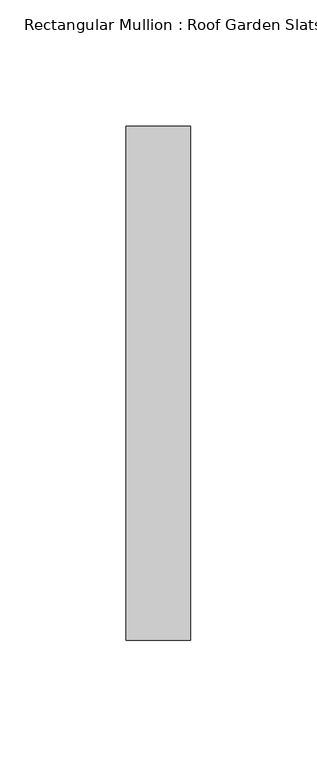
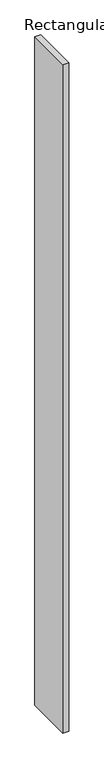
"""IFC4 building model written with IfcOpenShell, lengths in millimetres: member geometry, Rectangular Mullion : Roof Garden Slats."""

from ifc_helpers import new_model, si_unit, frame, origin, place, context, project, spatial, polyline, outline, extrude, source, transform, mapped, element, save


def rectangular_mullion_roof_garden_slats_bd5e8e8c(model_context):
    return source(origin(), model_context, "Body", "SweptSolid", [
        extrude(outline(polyline([(12.7, 139.7), (12.7, -63.5), (-12.7, -63.5), (-12.7, 139.7), (12.7, 139.7)])), frame((0.0, 0.0, -2979.9959549), z_axis=(0.0, 0.0, 1.0), x_axis=(1.0, 0.0, 0.0)), (0.0, 0.0, 1.0), 2979.9959549),
    ])


if __name__ == "__main__":
    model = new_model("IFC4")
    model_context = context("Model", 3, world=origin())
    ifc_project = project(units=[si_unit("LENGTHUNIT", "METRE", prefix="MILLI")], contexts=[model_context])
    site = spatial("IfcSite", under=ifc_project)
    building = spatial("IfcBuilding", under=site)
    placement = place(None, origin())
    rectangular_mullion_roof_garden_slats_shape = rectangular_mullion_roof_garden_slats_bd5e8e8c(model_context)
    element("IfcMember", 1, ObjectType="Rectangular Mullion : Roof Garden Slats", at=placement, inside=building, context=model_context, shape_type="MappedRepresentation", body=[
        mapped(rectangular_mullion_roof_garden_slats_shape, transform((0.0, 0.0, 0.0), x_axis=(1.0, 0.0, 0.0), y_axis=(0.0, 1.0, 0.0), z_axis=(0.0, 0.0, 1.0))),
    ])
    save(model, "model.ifc")
